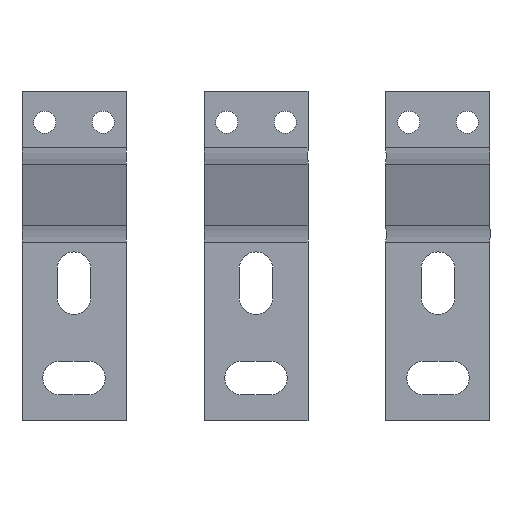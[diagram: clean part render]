
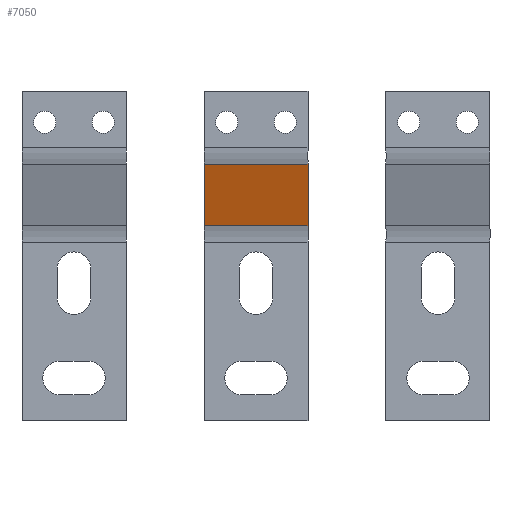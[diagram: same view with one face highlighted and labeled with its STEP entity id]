
A CAD part, top view. The second image highlights one B-rep face of the part: STEP entity #7050.
In plain terms, the highlighted planar face has unit normal (0, -0.318, 0.948).
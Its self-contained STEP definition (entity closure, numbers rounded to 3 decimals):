
#5235 = PLANE('',#5236);
#5236 = AXIS2_PLACEMENT_3D('',#5237,#5238,#5239);
#5237 = CARTESIAN_POINT('',(70.,-177.896,33.88));
#5238 = DIRECTION('',(1.,0.,0.));
#5239 = DIRECTION('',(0.,0.,1.));
#5291 = PLANE('',#5292);
#5292 = AXIS2_PLACEMENT_3D('',#5293,#5294,#5295);
#5293 = CARTESIAN_POINT('',(110.,-177.896,33.88));
#5294 = DIRECTION('',(1.,0.,0.));
#5295 = DIRECTION('',(0.,0.,1.));
#5317 = CYLINDRICAL_SURFACE('',#5318,20.);
#5318 = AXIS2_PLACEMENT_3D('',#5319,#5320,#5321);
#5319 = CARTESIAN_POINT('',(70.,-172.863,54.602));
#5320 = DIRECTION('',(1.,0.,0.));
#5321 = DIRECTION('',(0.,0.318,-0.948)
  );
#5971 = EDGE_CURVE('',#5972,#5974,#5976,.T.);
#5972 = VERTEX_POINT('',#5973);
#5973 = CARTESIAN_POINT('',(70.,-166.509,35.638));
#5974 = VERTEX_POINT('',#5975);
#5975 = CARTESIAN_POINT('',(70.,-142.845,43.566));
#5976 = SURFACE_CURVE('',#5977,(#5981,#5988),.PCURVE_S1.);
#5977 = LINE('',#5978,#5979);
#5978 = CARTESIAN_POINT('',(70.,-169.601,34.602));
#5979 = VECTOR('',#5980,1.);
#5980 = DIRECTION('',(0.,0.948,0.318)
  );
#5981 = PCURVE('',#5235,#5982);
#5982 = DEFINITIONAL_REPRESENTATION('',(#5983),#5987);
#5983 = LINE('',#5984,#5985);
#5984 = CARTESIAN_POINT('',(0.722,-8.295));
#5985 = VECTOR('',#5986,1.);
#5986 = DIRECTION('',(0.318,-0.948));
#5987 = ( GEOMETRIC_REPRESENTATION_CONTEXT(2) 
PARAMETRIC_REPRESENTATION_CONTEXT() REPRESENTATION_CONTEXT('2D SPACE',''
  ) );
#5988 = PCURVE('',#5989,#5994);
#5989 = PLANE('',#5990);
#5990 = AXIS2_PLACEMENT_3D('',#5991,#5992,#5993);
#5991 = CARTESIAN_POINT('',(70.,-169.601,34.602));
#5992 = DIRECTION('',(0.,-0.318,0.948)
  );
#5993 = DIRECTION('',(0.,0.948,0.318)
  );
#5994 = DEFINITIONAL_REPRESENTATION('',(#5995),#5999);
#5995 = LINE('',#5996,#5997);
#5996 = CARTESIAN_POINT('',(0.,0.));
#5997 = VECTOR('',#5998,1.);
#5998 = DIRECTION('',(1.,0.));
#5999 = ( GEOMETRIC_REPRESENTATION_CONTEXT(2) 
PARAMETRIC_REPRESENTATION_CONTEXT() REPRESENTATION_CONTEXT('2D SPACE',''
  ) );
#6267 = CYLINDRICAL_SURFACE('',#6268,20.);
#6268 = AXIS2_PLACEMENT_3D('',#6269,#6270,#6271);
#6269 = CARTESIAN_POINT('',(70.,-136.492,24.602));
#6270 = DIRECTION('',(1.,0.,0.));
#6271 = DIRECTION('',(0.,-0.318,0.948)
  );
#6285 = VERTEX_POINT('',#6286);
#6286 = CARTESIAN_POINT('',(110.,-166.509,35.638));
#6312 = EDGE_CURVE('',#5972,#6285,#6313,.T.);
#6313 = SURFACE_CURVE('',#6314,(#6318,#6325),.PCURVE_S1.);
#6314 = LINE('',#6315,#6316);
#6315 = CARTESIAN_POINT('',(70.,-166.509,35.638));
#6316 = VECTOR('',#6317,1.);
#6317 = DIRECTION('',(1.,0.,0.));
#6318 = PCURVE('',#5317,#6319);
#6319 = DEFINITIONAL_REPRESENTATION('',(#6320),#6324);
#6320 = LINE('',#6321,#6322);
#6321 = CARTESIAN_POINT('',(-0.,0.));
#6322 = VECTOR('',#6323,1.);
#6323 = DIRECTION('',(-0.,1.));
#6324 = ( GEOMETRIC_REPRESENTATION_CONTEXT(2) 
PARAMETRIC_REPRESENTATION_CONTEXT() REPRESENTATION_CONTEXT('2D SPACE',''
  ) );
#6325 = PCURVE('',#5989,#6326);
#6326 = DEFINITIONAL_REPRESENTATION('',(#6327),#6331);
#6327 = LINE('',#6328,#6329);
#6328 = CARTESIAN_POINT('',(3.261,0.));
#6329 = VECTOR('',#6330,1.);
#6330 = DIRECTION('',(0.,-1.));
#6331 = ( GEOMETRIC_REPRESENTATION_CONTEXT(2) 
PARAMETRIC_REPRESENTATION_CONTEXT() REPRESENTATION_CONTEXT('2D SPACE',''
  ) );
#6385 = EDGE_CURVE('',#6285,#6386,#6388,.T.);
#6386 = VERTEX_POINT('',#6387);
#6387 = CARTESIAN_POINT('',(110.,-142.845,43.566));
#6388 = SURFACE_CURVE('',#6389,(#6393,#6400),.PCURVE_S1.);
#6389 = LINE('',#6390,#6391);
#6390 = CARTESIAN_POINT('',(110.,-169.601,34.602));
#6391 = VECTOR('',#6392,1.);
#6392 = DIRECTION('',(0.,0.948,0.318)
  );
#6393 = PCURVE('',#5291,#6394);
#6394 = DEFINITIONAL_REPRESENTATION('',(#6395),#6399);
#6395 = LINE('',#6396,#6397);
#6396 = CARTESIAN_POINT('',(0.722,-8.295));
#6397 = VECTOR('',#6398,1.);
#6398 = DIRECTION('',(0.318,-0.948));
#6399 = ( GEOMETRIC_REPRESENTATION_CONTEXT(2) 
PARAMETRIC_REPRESENTATION_CONTEXT() REPRESENTATION_CONTEXT('2D SPACE',''
  ) );
#6400 = PCURVE('',#5989,#6401);
#6401 = DEFINITIONAL_REPRESENTATION('',(#6402),#6406);
#6402 = LINE('',#6403,#6404);
#6403 = CARTESIAN_POINT('',(0.,-40.));
#6404 = VECTOR('',#6405,1.);
#6405 = DIRECTION('',(1.,0.));
#6406 = ( GEOMETRIC_REPRESENTATION_CONTEXT(2) 
PARAMETRIC_REPRESENTATION_CONTEXT() REPRESENTATION_CONTEXT('2D SPACE',''
  ) );
#7050 = ADVANCED_FACE('',(#7051),#5989,.T.);
#7051 = FACE_BOUND('',#7052,.T.);
#7052 = EDGE_LOOP('',(#7053,#7054,#7055,#7056));
#7053 = ORIENTED_EDGE('',*,*,#5971,.F.);
#7054 = ORIENTED_EDGE('',*,*,#6312,.T.);
#7055 = ORIENTED_EDGE('',*,*,#6385,.T.);
#7056 = ORIENTED_EDGE('',*,*,#7057,.F.);
#7057 = EDGE_CURVE('',#5974,#6386,#7058,.T.);
#7058 = SURFACE_CURVE('',#7059,(#7063,#7070),.PCURVE_S1.);
#7059 = LINE('',#7060,#7061);
#7060 = CARTESIAN_POINT('',(70.,-142.845,43.566));
#7061 = VECTOR('',#7062,1.);
#7062 = DIRECTION('',(1.,0.,0.));
#7063 = PCURVE('',#5989,#7064);
#7064 = DEFINITIONAL_REPRESENTATION('',(#7065),#7069);
#7065 = LINE('',#7066,#7067);
#7066 = CARTESIAN_POINT('',(28.218,0.));
#7067 = VECTOR('',#7068,1.);
#7068 = DIRECTION('',(0.,-1.));
#7069 = ( GEOMETRIC_REPRESENTATION_CONTEXT(2) 
PARAMETRIC_REPRESENTATION_CONTEXT() REPRESENTATION_CONTEXT('2D SPACE',''
  ) );
#7070 = PCURVE('',#6267,#7071);
#7071 = DEFINITIONAL_REPRESENTATION('',(#7072),#7076);
#7072 = LINE('',#7073,#7074);
#7073 = CARTESIAN_POINT('',(-0.,0.));
#7074 = VECTOR('',#7075,1.);
#7075 = DIRECTION('',(-0.,1.));
#7076 = ( GEOMETRIC_REPRESENTATION_CONTEXT(2) 
PARAMETRIC_REPRESENTATION_CONTEXT() REPRESENTATION_CONTEXT('2D SPACE',''
  ) );
